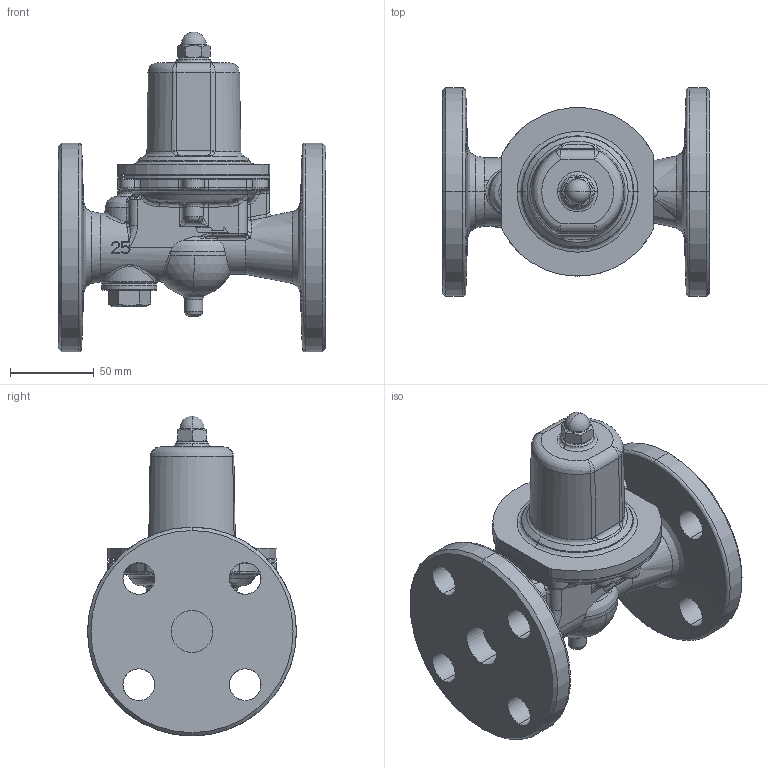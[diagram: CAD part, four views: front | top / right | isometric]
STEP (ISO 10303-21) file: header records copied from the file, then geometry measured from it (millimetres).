
FILE_DESCRIPTION( (''), '2;1');
FILE_NAME ('PC2091.19220.GD-29-NE 25A_24909.stp','2026-04-16T18:05:01',(''),(''),'spGate 21.9.4 (****-****-****-****)','','');
FILE_SCHEMA (('AUTOMOTIVE_DESIGN'));
Length unit declared in the file: millimetre
Products named in the file (6): Assembly; GD-26-NE ダイヤフラム 15-25A; GD-26-NE 保護筒 15-25A; GD-26-NE 六角袋ナット 15-25A; GD-26-NE ストレーナキャップ 25A; GD-27-NE 弁箱 25A
Assembly tree (5 placements, depth 2):
  Assembly
    GD-26-NE ダイヤフラム 15-25A
    GD-26-NE 保護筒 15-25A
    GD-26-NE 六角袋ナット 15-25A
    GD-26-NE ストレーナキャップ 25A
    GD-27-NE 弁箱 25A
Bounding box: 160 x 125 x 191.5 mm (x, y, z)
Volume: 832426.1 mm3; surface area: 138988.2 mm2
Topology: 5 solids, 5 shells, 487 faces, 1213 edges, 714 vertices
Faces by surface type: bspline 264, cylinder 128, plane 73, sphere 22
Entity records: 34959 total; most frequent: CARTESIAN_POINT 16052, ORIENTED_EDGE 2360, COLOUR_RGB 1672, PRESENTATION_STYLE_ASSIGNMENT 1672, STYLED_ITEM 1672, DIRECTION 1510, EDGE_CURVE 1180, DRAUGHTING_PRE_DEFINED_CURVE_FONT 1180
